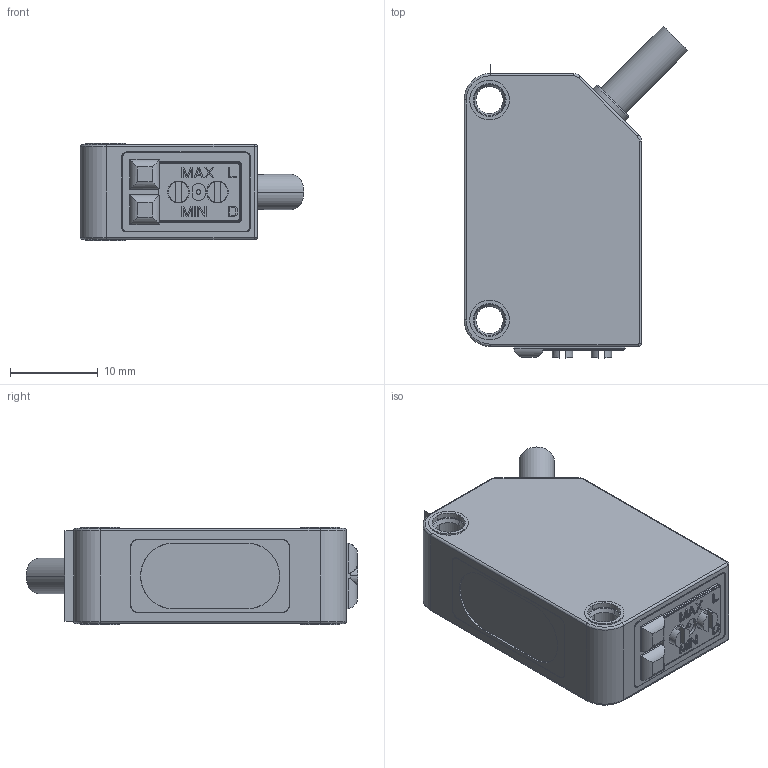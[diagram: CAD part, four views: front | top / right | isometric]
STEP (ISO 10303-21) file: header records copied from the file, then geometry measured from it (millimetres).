
FILE_DESCRIPTION((''),'2;1');
FILE_NAME('EW-R61_ASM','2018-07-21T08:46:29',('Administrator'),(''),'CREO PARAMETRIC BY PTC INC, 2016390','CREO PARAMETRIC BY PTC INC, 2016390','');
FILE_SCHEMA(('CONFIG_CONTROL_DESIGN'));
Length unit declared in the file: millimetre
Products named in the file (11): 2018-3-30-15002_2; CH15003MOLD_1_8; 2018-3-30-16022_19; EW-R61PCB_1; EW-R61JIESHOU_LED; EW-R61FASHE_LED; EW-R61PCB_2; DD; CH15003MOLD_1_10; WEITIAONIU; EW-R61_ASM
Assembly tree (11 placements, depth 2):
  EW-R61_ASM
    2018-3-30-15002_2
    CH15003MOLD_1_8
    2018-3-30-16022_19
    EW-R61PCB_1
    EW-R61JIESHOU_LED
    EW-R61FASHE_LED
    EW-R61PCB_2
    DD
    CH15003MOLD_1_10
    WEITIAONIU  x2
Bounding box: 25.46 x 37.73 x 11.1 mm (x, y, z)
Volume: 4106.9 mm3; surface area: 7710.7 mm2
Topology: 12 solids, 12 shells, 746 faces, 2008 edges, 1320 vertices
Faces by surface type: plane 469, cylinder 136, cone 79, torus 26, bspline 24, revolution 4, extrusion 4, sphere 4
Entity records: 23384 total; most frequent: CARTESIAN_POINT 5080, ORIENTED_EDGE 3816, DIRECTION 3711, EDGE_CURVE 1908, VECTOR 1315, LINE 1311, VERTEX_POINT 1262, AXIS2_PLACEMENT_3D 1196
